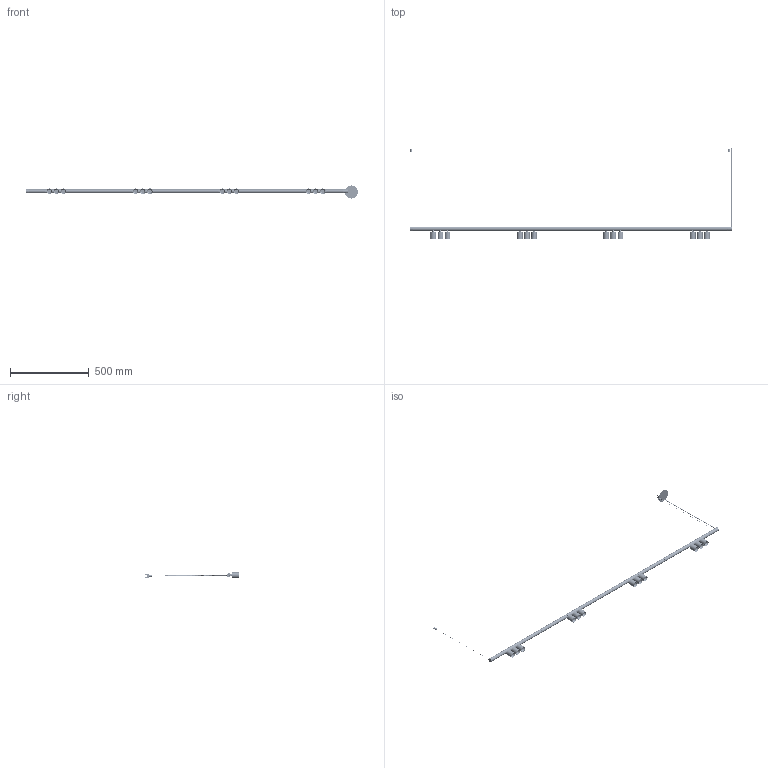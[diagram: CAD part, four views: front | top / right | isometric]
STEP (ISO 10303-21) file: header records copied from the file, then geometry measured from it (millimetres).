
FILE_DESCRIPTION (( 'STEP AP214' ), '1' );
FILE_NAME ('OVAL ROLL 20 rec.STEP', '2024-03-21T09:40:44', ( '' ), ( '' ), 'SwSTEP 2.0', 'SolidWorks 2024', '' );
FILE_SCHEMA (( 'AUTOMOTIVE_DESIGN' ));
Length unit declared in the file: millimetre
Products named in the file (40): Taco cuerpo Micro; Tapa Micro V5_V5.1; Cable_VISUAL Alimentación Micro; Jack_Scpre; Ensamble MISTER 11 24V_Click; 04-23DM08-Adaptador_Tapa_ Largo (V1.2)_24V; CJ05-ENS_Roll (V1.2)_Proyector; Led VS MISTER 11_Disipador; Tuerca M8_Predeterminada; Driver Entity EN1689; Cable acero_0.5m; Reflector Modulo VS-R11_2; Tuerca Hembra Conector Jack; Tapa Floron Emp. MICRO_Tapa empotarable; 04-23DM09-Cuerpo Roll 24V; 04-23DM10-Boca Roll 24V_Ajust 1.0; OVAL ROLL 20 rec; Tapon Tapa_2; Difusor Negro Oval_0.1m; Tapa Alimentación Perfil_SCPRE; Ensamble Tapa + Tope_Con Conector; 04-23DM03-Tope_Adaptador_1.3; Taco Micro_Ø10 M10*5; CJ04-FOCO ROLL; Prisionero STEAB M4x4_8; Tapa Unión-Final V5_V5.1 Colgante Union ; CUI_DEVICES_PJ-005B_Ø2.5; Regulador Cable Ø0.6 (Bereta LT1007.0601); Conector Molex Hembra 43020; 04-23DM07-Adaptador_Caja_ Larga_DM01.3; Difusor Ø24_.8; Ensamble Tensor Micro_Con Cable; Tija Tiny_Torno; Ensamblaje FLORON EMP. MICRO; eje cable colgante_M8 MICRO; Difusor Negro Oval_0.4m; Floron U Muelle MICRO; COB VS MisterR11; Ensamble Conector Jack Unión_Alimentación Colgante SCPRE; Perfil Micro V4_2m
Assembly tree (51 placements, depth 5):
  OVAL ROLL 20 rec
    Perfil Micro V4_2m
    CJ05-ENS_Roll (V1.2)_Proyector  x4
      04-23DM07-Adaptador_Caja_ Larga_DM01.3
      04-23DM08-Adaptador_Tapa_ Largo (V1.2)_24V
      Conector Molex Hembra 43020
      Driver Entity EN1689
      04-23DM03-Tope_Adaptador_1.3
      CJ04-FOCO ROLL
        04-23DM09-Cuerpo Roll 24V
        Ensamble MISTER 11 24V_Click
          Led VS MISTER 11_Disipador
          Reflector Modulo VS-R11_2
          COB VS MisterR11
          Difusor Ø24_.8
          04-23DM10-Boca Roll 24V_Ajust 1.0
      Tija Tiny_Torno
    Difusor Negro Oval_0.1m  x2
    Difusor Negro Oval_0.4m  x3
    Ensamble Tapa + Tope_Con Conector  x2
      Tapa Micro V5_V5.1
      CUI_DEVICES_PJ-005B_Ø2.5
      Tuerca Hembra Conector Jack
    Ensamble Tensor Micro_Con Cable  x2
      Taco Micro_Ø10 M10*5
      Taco cuerpo Micro
      Regulador Cable Ø0.6 (Bereta LT1007.0601)
      Cable acero_0.5m
    Tapa Unión-Final V5_V5.1 Colgante Union   x2
    Ensamble Conector Jack Unión_Alimentación Colgante SCPRE
      Cable_VISUAL Alimentación Micro
      Jack_Scpre
      Tapa Alimentación Perfil_SCPRE
      Prisionero STEAB M4x4_8
    Ensamblaje FLORON EMP. MICRO
      Tapa Floron Emp. MICRO_Tapa empotarable
      Floron U Muelle MICRO
      eje cable colgante_M8 MICRO
      Tuerca M8_Predeterminada
    Tapon Tapa_2
Bounding box: 2111.94 x 597.37 x 83.01 mm (x, y, z)
Volume: 654239.3 mm3; surface area: 828422.1 mm2
Topology: 132 solids, 134 shells, 21385 faces, 55751 edges, 34881 vertices
Faces by surface type: bspline 5856, plane 5777, cylinder 5680, torus 2053, cone 1475, sphere 544
Entity records: 170381 total; most frequent: CARTESIAN_POINT 95423, ORIENTED_EDGE 16868, DIRECTION 13602, EDGE_CURVE 8434, VERTEX_POINT 5333, AXIS2_PLACEMENT_3D 5092, EDGE_LOOP 3457, LINE 3418
